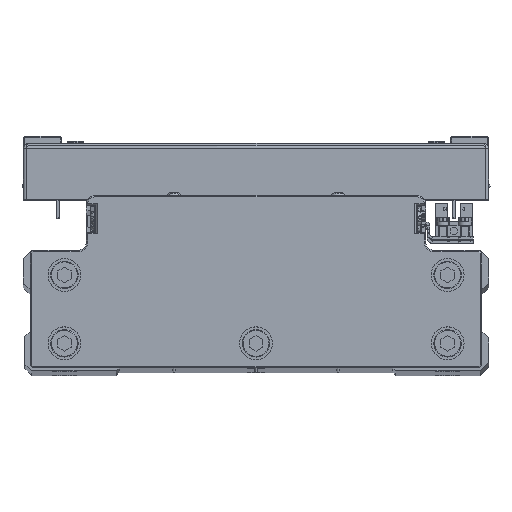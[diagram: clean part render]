
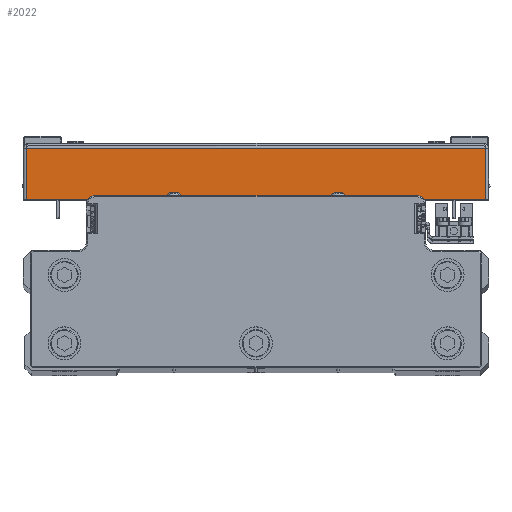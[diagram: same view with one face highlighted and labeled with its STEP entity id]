
A CAD part, top view. The second image highlights one B-rep face of the part: STEP entity #2022.
In plain terms, the highlighted planar face has unit normal (0, 0, 1) as drawn and (1, 0, 0) by its records, which use the part's own axes.
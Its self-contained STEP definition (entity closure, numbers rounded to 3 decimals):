
#1016 = CARTESIAN_POINT ( 'NONE',  ( 110., 1., -83.929 ) ) ;
#2022 = ADVANCED_FACE ( 'NONE', ( #30923 ), #44864, .F. ) ;
#2350 = VECTOR ( 'NONE', #21429, 1000. ) ;
#4647 = ORIENTED_EDGE ( 'NONE', *, *, #21598, .F. ) ;
#6375 = DIRECTION ( 'NONE',  ( 0., 1., 0. ) ) ;
#7451 = CARTESIAN_POINT ( 'NONE',  ( 110., 1., 85. ) ) ;
#8971 = CARTESIAN_POINT ( 'NONE',  ( 110., 0., 83.929 ) ) ;
#12698 = ORIENTED_EDGE ( 'NONE', *, *, #15843, .T. ) ;
#12860 = VECTOR ( 'NONE', #6375, 1000. ) ;
#13549 = CARTESIAN_POINT ( 'NONE',  ( 110., 0., 0. ) ) ;
#14975 = CARTESIAN_POINT ( 'NONE',  ( 110., 19.5, 83.929 ) ) ;
#15843 = EDGE_CURVE ( 'NONE', #40378, #19397, #23781, .T. ) ;
#17324 = LINE ( 'NONE', #31285, #21478 ) ;
#19397 = VERTEX_POINT ( 'NONE', #25439 ) ;
#21429 = DIRECTION ( 'NONE',  ( 0., 0., 1. ) ) ;
#21478 = VECTOR ( 'NONE', #45207, 1000. ) ;
#21598 = EDGE_CURVE ( 'NONE', #27880, #37907, #40306, .T. ) ;
#21641 = CARTESIAN_POINT ( 'NONE',  ( 110., 1., 83.929 ) ) ;
#22936 = DIRECTION ( 'NONE',  ( 0., 1., 0. ) ) ;
#23781 = LINE ( 'NONE', #37731, #12860 ) ;
#25439 = CARTESIAN_POINT ( 'NONE',  ( 110., 19.5, -83.929 ) ) ;
#27515 = DIRECTION ( 'NONE',  ( -1., 0., 0. ) ) ;
#27880 = VERTEX_POINT ( 'NONE', #21641 ) ;
#28851 = AXIS2_PLACEMENT_3D ( 'NONE', #13549, #27515, #41456 ) ;
#30923 = FACE_OUTER_BOUND ( 'NONE', #38885, .T. ) ;
#31285 = CARTESIAN_POINT ( 'NONE',  ( 110., 19.5, 0. ) ) ;
#31302 = VECTOR ( 'NONE', #22936, 1000. ) ;
#32822 = ORIENTED_EDGE ( 'NONE', *, *, #45076, .T. ) ;
#34739 = EDGE_CURVE ( 'NONE', #40378, #27880, #38801, .T. ) ;
#35939 = ORIENTED_EDGE ( 'NONE', *, *, #34739, .F. ) ;
#37731 = CARTESIAN_POINT ( 'NONE',  ( 110., 0., -83.929 ) ) ;
#37907 = VERTEX_POINT ( 'NONE', #14975 ) ;
#38801 = LINE ( 'NONE', #7451, #2350 ) ;
#38885 = EDGE_LOOP ( 'NONE', ( #35939, #12698, #32822, #4647 ) ) ;
#40306 = LINE ( 'NONE', #8971, #31302 ) ;
#40378 = VERTEX_POINT ( 'NONE', #1016 ) ;
#41456 = DIRECTION ( 'NONE',  ( 0., -1., 0. ) ) ;
#44864 = PLANE ( 'NONE',  #28851 ) ;
#45076 = EDGE_CURVE ( 'NONE', #19397, #37907, #17324, .T. ) ;
#45207 = DIRECTION ( 'NONE',  ( 0., 0., 1. ) ) ;
